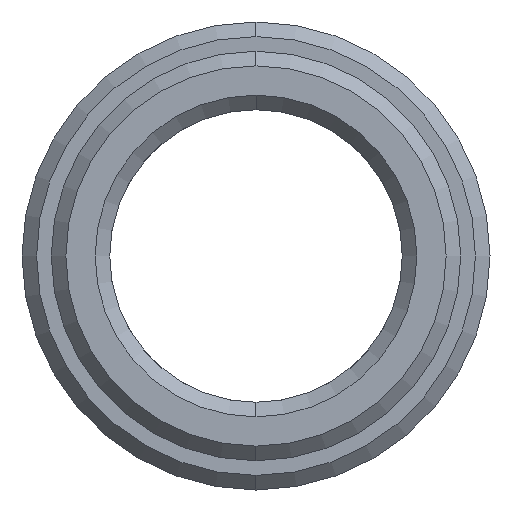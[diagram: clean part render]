
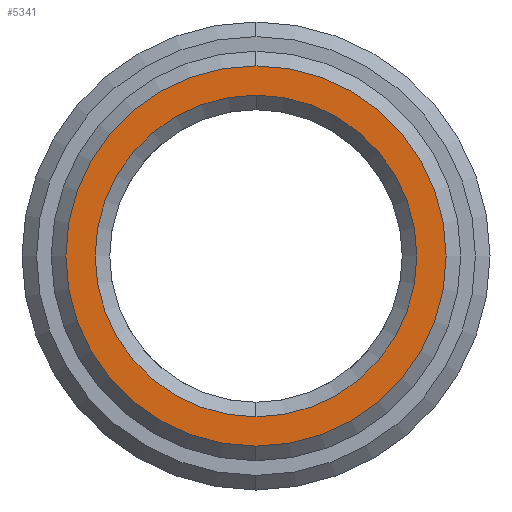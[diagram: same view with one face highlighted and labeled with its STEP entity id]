
A CAD part, left-side view. The second image highlights one B-rep face of the part: STEP entity #5341.
In plain terms, the highlighted planar face has unit normal (-1, 0, 0).
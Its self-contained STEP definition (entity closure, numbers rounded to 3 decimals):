
#3212=CARTESIAN_POINT('',(-5.,0.,0.));
#3213=DIRECTION('',(1.,0.,0.));
#3214=DIRECTION('',(0.,0.,1.));
#3215=AXIS2_PLACEMENT_3D('',#3212,#3213,#3214);
#3217=CARTESIAN_POINT('',(-5.,0.,0.));
#3218=DIRECTION('',(1.,0.,0.));
#3219=DIRECTION('',(0.,0.,-1.));
#3220=AXIS2_PLACEMENT_3D('',#3217,#3218,#3219);
#3222=CARTESIAN_POINT('',(-5.,0.,0.));
#3223=DIRECTION('',(1.,0.,0.));
#3224=DIRECTION('',(0.,0.,1.));
#3225=AXIS2_PLACEMENT_3D('',#3222,#3223,#3224);
#3227=CARTESIAN_POINT('',(-5.,0.,0.));
#3228=DIRECTION('',(1.,0.,0.));
#3229=DIRECTION('',(0.,0.,-1.));
#3230=AXIS2_PLACEMENT_3D('',#3227,#3228,#3229);
#3498=CARTESIAN_POINT('',(-5.,0.,5.5));
#3499=CARTESIAN_POINT('',(-5.,0.,-5.5));
#3500=VERTEX_POINT('',#3498);
#3501=VERTEX_POINT('',#3499);
#3506=CARTESIAN_POINT('',(-5.,0.,6.5));
#3507=CARTESIAN_POINT('',(-5.,0.,-6.5));
#3508=VERTEX_POINT('',#3506);
#3509=VERTEX_POINT('',#3507);
#5326=CARTESIAN_POINT('',(-5.,0.,0.));
#5327=DIRECTION('',(1.,0.,0.));
#5328=DIRECTION('',(0.,0.,1.));
#5329=AXIS2_PLACEMENT_3D('',#5326,#5327,#5328);
#5330=PLANE('',#5329);
#5331=ORIENTED_EDGE('',*,*,#5293,.T.);
#5332=ORIENTED_EDGE('',*,*,#5308,.T.);
#5333=EDGE_LOOP('',(#5331,#5332));
#5334=FACE_OUTER_BOUND('',#5333,.F.);
#5336=ORIENTED_EDGE('',*,*,#5335,.F.);
#5338=ORIENTED_EDGE('',*,*,#5337,.F.);
#5339=EDGE_LOOP('',(#5336,#5338));
#5340=FACE_BOUND('',#5339,.F.);
#5341=ADVANCED_FACE('',(#5334,#5340),#5330,.F.);
#3216=CIRCLE('',#3215,6.5);
#3221=CIRCLE('',#3220,6.5);
#3226=CIRCLE('',#3225,5.5);
#3231=CIRCLE('',#3230,5.5);
#5293=EDGE_CURVE('',#3508,#3509,#3216,.T.);
#5308=EDGE_CURVE('',#3509,#3508,#3221,.T.);
#5335=EDGE_CURVE('',#3500,#3501,#3226,.T.);
#5337=EDGE_CURVE('',#3501,#3500,#3231,.T.);
